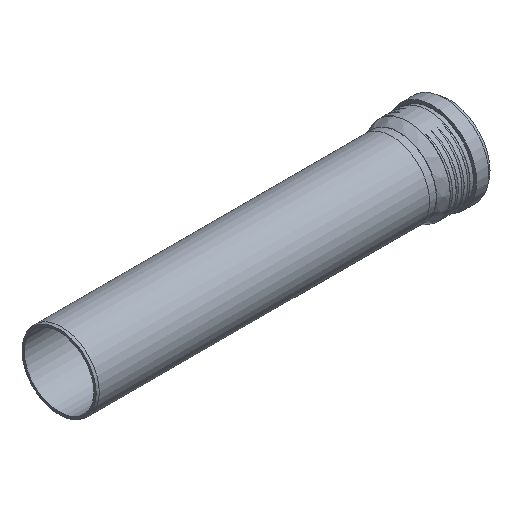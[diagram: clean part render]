
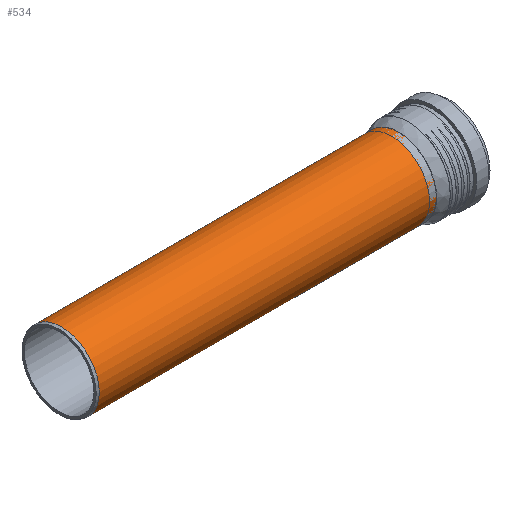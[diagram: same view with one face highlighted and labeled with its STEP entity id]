
A CAD part, isometric view. The second image highlights one B-rep face of the part: STEP entity #534.
In plain terms, the highlighted cylindrical face has radius 55.1 mm (diameter 110.2 mm), a full revolution.
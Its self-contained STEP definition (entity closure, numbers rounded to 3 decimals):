
#66=CYLINDRICAL_SURFACE('',#580,55.1);
#87=FACE_BOUND('',#158,.T.);
#122=FACE_OUTER_BOUND('',#157,.T.);
#157=EDGE_LOOP('',(#370));
#158=EDGE_LOOP('',(#371));
#222=CIRCLE('',#576,55.1);
#225=CIRCLE('',#581,55.1);
#249=VERTEX_POINT('',#771);
#252=VERTEX_POINT('',#779);
#304=EDGE_CURVE('',#249,#249,#222,.T.);
#307=EDGE_CURVE('',#252,#252,#225,.T.);
#370=ORIENTED_EDGE('',*,*,#307,.F.);
#371=ORIENTED_EDGE('',*,*,#304,.F.);
#534=ADVANCED_FACE('',(#122,#87),#66,.T.);
#576=AXIS2_PLACEMENT_3D('',#772,#643,#644);
#580=AXIS2_PLACEMENT_3D('',#778,#651,#652);
#581=AXIS2_PLACEMENT_3D('',#780,#653,#654);
#643=DIRECTION('center_axis',(-1.,0.,0.));
#644=DIRECTION('ref_axis',(0.,1.,0.));
#651=DIRECTION('center_axis',(1.,0.,0.));
#652=DIRECTION('ref_axis',(0.,1.,0.));
#653=DIRECTION('center_axis',(1.,0.,0.));
#654=DIRECTION('ref_axis',(0.,1.,0.));
#771=CARTESIAN_POINT('',(-244.,-55.1,0.));
#772=CARTESIAN_POINT('Origin',(-244.,0.,0.));
#778=CARTESIAN_POINT('Origin',(0.,0.,
0.));
#779=CARTESIAN_POINT('',(247.5,-55.1,0.));
#780=CARTESIAN_POINT('Origin',(247.5,0.,0.));
